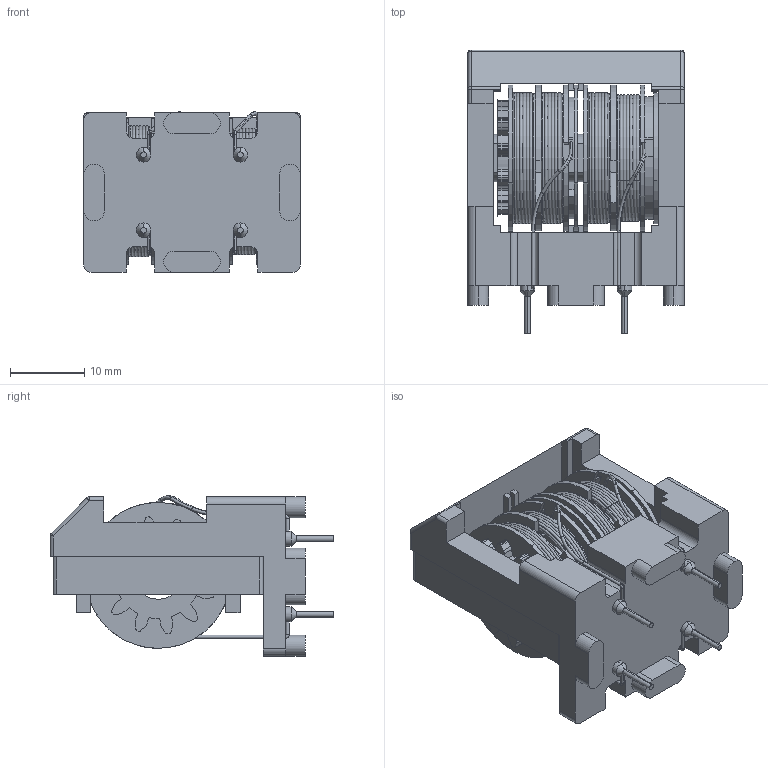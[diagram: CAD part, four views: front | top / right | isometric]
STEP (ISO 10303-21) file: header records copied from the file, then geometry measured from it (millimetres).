
FILE_DESCRIPTION (( 'STEP AP214' ), '1' );
FILE_NAME ('28V-47K.STEP', '2020-07-28T22:52:53', ( '' ), ( '' ), 'SwSTEP 2.0', 'SolidWorks 2015', '' );
FILE_SCHEMA (( 'AUTOMOTIVE_DESIGN' ));
Length unit declared in the file: inch
Products named in the file (1): 28V-47K
Bounding box: 29.1 x 38.1 x 21.53 mm (x, y, z)
Surface area: 10966.1 mm2 (no closed solid volume)
Topology: 0 solids, 14 shells, 472 faces, 1400 edges, 921 vertices
Faces by surface type: plane 169, cylinder 157, torus 134, cone 8, sphere 4
Entity records: 22129 total; most frequent: DIRECTION 3032, CARTESIAN_POINT 2884, ORIENTED_EDGE 2537, EDGE_CURVE 1398, AXIS2_PLACEMENT_3D 1173, VERTEX_POINT 921, CIRCLE 700, LINE 686
